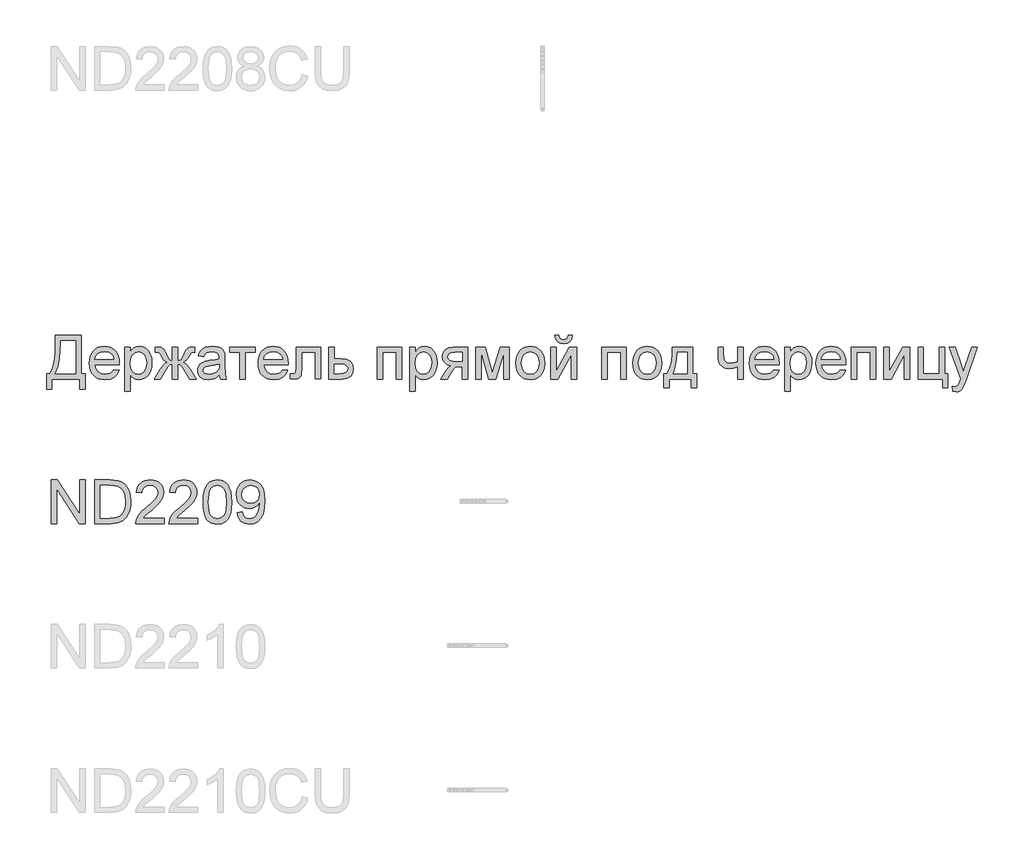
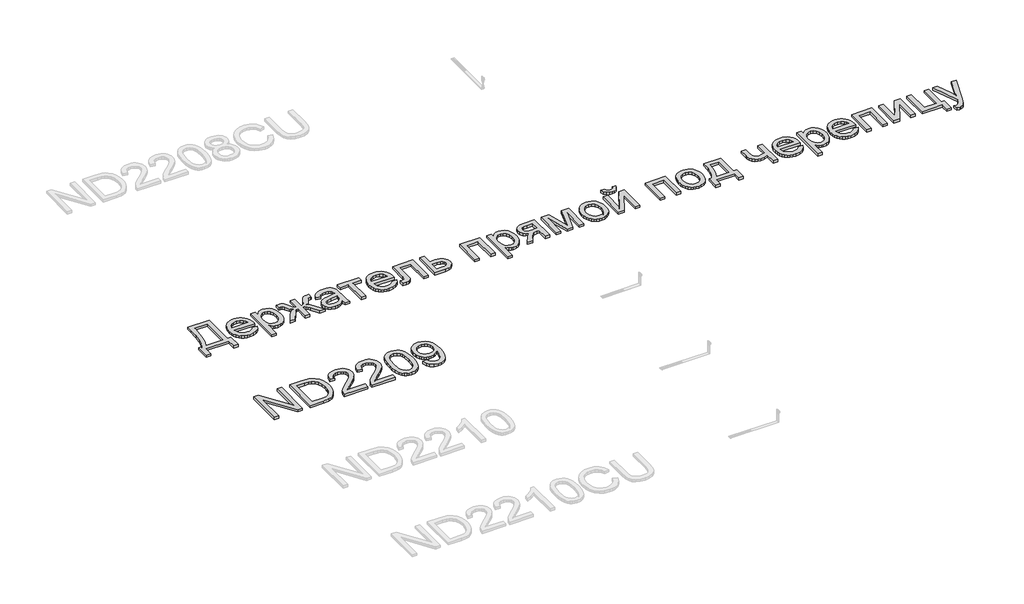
# One storey, part 89 of 124: 2 proxies.
"""IFC4 building model written with IfcOpenShell, lengths in millimetres."""

from ifc_helpers import new_model, si_unit, origin, origin_with_axes, place, context, project, spatial, polyline, outline, extrude, element, save

model = new_model("IFC4")

# Units and contexts
model_context = context("Model", 3, world=origin())
ifc_project = project(units=[si_unit("LENGTHUNIT", "METRE", prefix="MILLI")], contexts=[model_context])

# Site, building, storey
site = spatial("IfcSite", under=ifc_project)
building = spatial("IfcBuilding", under=site)
storey = spatial("IfcBuildingStorey", under=building, Name="Этаж 01", Elevation=0.0)

# Proxies
placement = place(None, origin())
element("IfcBuildingElementProxy", 1, Name="300", ObjectType="300", at=placement, inside=storey, context=model_context, shape_type="SweptSolid", body=[
    extrude(outline(polyline([(23368.4204648, -26218.1451728), (23547.3582672, -26218.1451728), (23547.3582672, -26481.842987), (23575.6116044, -26481.842987), (23575.6116044, -26590.1474463), (23537.9404881, -26590.1474463), (23537.9404881, -26519.5141033), (23344.8760171, -26519.5141033), (23344.8760171, -26590.1474463), (23307.2049008, -26590.1474463), (23307.2049008, -26481.842987), (23330.7493485, -26481.842987), (23347.2304618, -26447.6713481), (23359.0026857, -26399.6029669), (23366.06602, -26337.6378434), (23368.4204648, -26261.7759774), (23368.4204648, -26218.1451728)]), holes=[polyline([(23509.6871509, -26255.8162891), (23406.0915811, -26255.8162891), (23406.0915811, -26270.9730273), (23398.4396356, -26374.2007152), (23387.1088701, -26433.8527807), (23368.4204648, -26481.842987), (23509.6871509, -26481.842987), (23509.6871509, -26255.8162891)])]), origin_with_axes(), (0.0, 0.0, 1.0), 20.0),
    extrude(outline(polyline([(23772.9435067, -26453.5896497), (23809.878859, -26458.2985393), (23796.5707278, -26486.1288122), (23775.3347396, -26506.932539), (23746.649141, -26519.9003794), (23710.9921787, -26524.2229928), (23687.6178764, -26522.3582909), (23666.7911569, -26516.7641853), (23648.5120203, -26507.440676), (23632.7804665, -26494.387763), (23620.1299244, -26477.9687297), (23611.0938229, -26458.5468596), (23605.672162, -26436.1221527), (23603.8649417, -26410.6946091), (23605.6905561, -26384.404842), (23611.1673993, -26361.2328748), (23620.2954713, -26341.1787076), (23633.0747721, -26324.2423402), (23648.7649392, -26310.7870562), (23666.62561, -26301.1761391), (23686.6567847, -26295.4095888), (23708.8584631, -26293.4874054), (23730.3450709, -26295.4049903), (23749.776138, -26301.157745), (23767.1516645, -26310.7456695), (23782.4716503, -26324.1687638), (23794.9773389, -26341.068343), (23803.9099736, -26361.085722), (23809.2695544, -26384.220901), (23811.0560814, -26410.4738799), (23810.8353522, -26420.627423), (23641.536058, -26420.627423), (23648.0567663, -26448.8255779), (23663.2043075, -26469.5557283), (23685.0656951, -26482.3028394), (23711.7279427, -26486.5518765), (23731.7775114, -26484.5837078), (23748.663295, -26478.6792018), (23762.3852934, -26468.4704764), (23772.9435067, -26453.5896497)]), holes=[polyline([(23641.536058, -26382.9563067), (23773.384965, -26382.9563067), (23768.2897994, -26363.0538907), (23758.3018032, -26348.8168575), (23736.3392481, -26335.5731057), (23708.7113103, -26331.1585217), (23683.3182556, -26334.6809918), (23662.3213907, -26345.2484021), (23647.7256725, -26361.7203185), (23641.536058, -26382.9563067)])]), origin_with_axes(), (0.0, 0.0, 1.0), 20.0),
    extrude(outline(polyline([(23848.7271977, -26604.2741149), (23848.7271977, -26298.196295), (23886.398314, -26298.196295), (23886.398314, -26335.1316473), (23898.6855726, -26316.9122915), (23912.4443592, -26303.8984659), (23928.4840142, -26296.0901705), (23947.613878, -26293.4874054), (23973.0897061, -26297.1294372), (23995.3649609, -26308.0555324), (24013.5015433, -26325.6035036), (24026.5613541, -26349.1111631), (24034.4524229, -26376.8678596), (24037.0827792, -26407.1629419), (24034.1121321, -26439.3802077), (24025.2001907, -26468.1945649), (24010.6320637, -26492.1436828), (23990.6928596, -26509.7652304), (23967.4703087, -26520.6085522), (23943.0521412, -26524.2229928), (23925.7340963, -26521.8041687), (23910.2738555, -26514.5476963), (23897.0393007, -26503.5940099), (23886.398314, -26490.0835436), (23886.398314, -26604.2741149), (23848.7271977, -26604.2741149)]), holes=[polyline([(23886.398314, -26410.6210327), (23890.4726071, -26444.3925998), (23902.6954864, -26468.0106239), (23920.7309012, -26481.9165634), (23942.2428008, -26486.5518765), (23964.1041884, -26481.7510165), (23982.5994557, -26467.3484363), (23995.2086111, -26442.8658896), (23999.4116629, -26407.8251295), (23995.3097786, -26374.2375034), (23983.0041259, -26350.2883855), (23964.9963022, -26335.9409877), (23943.7879052, -26331.1585217), (23922.4967347, -26336.2444903), (23903.7991323, -26351.5023961), (23890.7485186, -26376.4539924), (23886.398314, -26410.6210327)])]), origin_with_axes(), (0.0, 0.0, 1.0), 20.0),
    extrude(outline(polyline([(24216.0205816, -26298.196295), (24216.0205816, -26392.3740857), (24229.3103187, -26390.4335082), (24237.9831368, -26384.6117756), (24258.7684695, -26344.3286972), (24271.7363098, -26319.220751), (24283.563716, -26305.7010877), (24297.9295079, -26300.0724931), (24318.8068111, -26298.196295), (24333.7428201, -26298.196295), (24333.7428201, -26336.0881405), (24323.3685478, -26335.8674113), (24303.9443785, -26339.7669604), (24290.4798975, -26364.1943249), (24274.8449127, -26390.9761341), (24252.5144756, -26404.587768), (24264.9075003, -26409.8898672), (24277.1441751, -26419.2478655), (24301.1484753, -26450.131559), (24343.1605992, -26519.5141033), (24299.9712529, -26519.5141033), (24258.6213167, -26451.0880522), (24247.3181424, -26433.1262137), (24237.5416784, -26422.6507739), (24227.6548497, -26417.6015935), (24216.0205816, -26415.9185334), (24216.0205816, -26519.5141033), (24178.3494653, -26519.5141033), (24178.3494653, -26415.9185334), (24166.8071677, -26417.5648053), (24156.901945, -26422.5036211), (24147.0519046, -26432.9054845), (24135.6751539, -26450.9408994), (24094.3252176, -26519.5141033), (24051.2094478, -26519.5141033), (24093.0744189, -26450.131559), (24117.26266, -26419.2478655), (24129.5637143, -26409.8898672), (24142.0027242, -26404.587768), (24127.6185382, -26397.3772809), (24118.3111237, -26389.5781826), (24098.0040376, -26350.9505731), (24088.0712237, -26338.221856), (24071.8108395, -26335.6466821), (24060.6272269, -26335.8674113), (24060.6272269, -26298.196295), (24066.2926096, -26298.196295), (24099.3284128, -26300.5507397), (24116.4717138, -26310.55713), (24135.6751539, -26344.3286972), (24156.2397574, -26384.3542582), (24164.9125755, -26390.3691289), (24178.3494653, -26392.3740857), (24178.3494653, -26298.196295), (24216.0205816, -26298.196295)])), origin_with_axes(), (0.0, 0.0, 1.0), 20.0),
    extrude(outline(polyline([(24503.2628435, -26491.260766), (24485.2642169, -26506.6934157), (24466.7321614, -26516.7917765), (24447.2436127, -26522.3651887), (24426.3755065, -26524.2229928), (24394.8940047, -26519.7532266), (24371.6714538, -26506.3439278), (24357.3516471, -26485.9816594), (24352.5783783, -26460.652984), (24354.381, -26445.0363933), (24359.7888654, -26430.8545424), (24368.1305896, -26418.7144366), (24378.7347881, -26409.2230811), (24405.1119272, -26396.8622461), (24437.7062719, -26391.1968633), (24476.2235168, -26385.237175), (24503.0421143, -26378.2474171), (24503.2628435, -26369.8597076), (24500.6692754, -26353.0475004), (24492.8885712, -26342.0478288), (24475.4877528, -26333.8808485), (24451.2443294, -26331.1585217), (24428.8035277, -26332.9703406), (24413.1317547, -26338.405797), (24402.4447827, -26348.4581726), (24394.9583841, -26364.1207485), (24357.2872678, -26359.411859), (24363.8263703, -26338.8104672), (24373.5844402, -26322.6236594), (24387.4719855, -26310.2444303), (24406.3995141, -26301.0657745), (24429.5484887, -26295.3819977), (24456.1003717, -26293.4874054), (24481.5670028, -26295.1612685), (24501.7545273, -26300.1828577), (24516.9756448, -26307.7336357), (24527.5430552, -26316.9950649), (24534.5512072, -26328.445392), (24539.0945498, -26342.5628636), (24540.9339598, -26375.5250903), (24540.9339598, -26422.3932565), (24542.8469462, -26487.8394635), (24550.3517389, -26519.5141033), (24512.6806226, -26519.5141033), (24503.2628435, -26491.260766)]), holes=[polyline([(24503.2628435, -26415.9185334), (24442.4887379, -26427.4700281), (24410.0783341, -26433.5768692), (24395.3998425, -26443.5096831), (24390.2494946, -26458.0042337), (24393.0545948, -26469.2062404), (24401.4698954, -26478.3848962), (24415.3114555, -26484.5101314), (24434.395334, -26486.5518765), (24454.6288437, -26484.2985993), (24472.5079087, -26477.5387676), (24487.0024593, -26467.5783626), (24497.082426, -26455.7233653), (24501.5521922, -26443.5096831), (24503.0421143, -26426.5871113), (24503.2628435, -26415.9185334)])]), origin_with_axes(), (0.0, 0.0, 1.0), 20.0),
    extrude(outline(polyline([(24573.8961866, -26298.196295), (24752.833989, -26298.196295), (24752.833989, -26335.8674113), (24682.2006459, -26335.8674113), (24682.2006459, -26519.5141033), (24644.5295296, -26519.5141033), (24644.5295296, -26335.8674113), (24573.8961866, -26335.8674113), (24573.8961866, -26298.196295)])), origin_with_axes(), (0.0, 0.0, 1.0), 20.0),
    extrude(outline(polyline([(24940.7481121, -26453.5896497), (24977.6834645, -26458.2985393), (24964.3753333, -26486.1288122), (24943.1393451, -26506.932539), (24914.4537465, -26519.9003794), (24878.7967842, -26524.2229928), (24855.4224819, -26522.3582909), (24834.5957624, -26516.7641853), (24816.3166258, -26507.440676), (24800.585072, -26494.387763), (24787.9345299, -26477.9687297), (24778.8984284, -26458.5468596), (24773.4767675, -26436.1221527), (24771.6695472, -26410.6946091), (24773.4951616, -26384.404842), (24778.9720048, -26361.2328748), (24788.1000768, -26341.1787076), (24800.8793776, -26324.2423402), (24816.5695447, -26310.7870562), (24834.4302155, -26301.1761391), (24854.4613902, -26295.4095888), (24876.6630686, -26293.4874054), (24898.1496764, -26295.4049903), (24917.5807435, -26301.157745), (24934.95627, -26310.7456695), (24950.2762558, -26324.1687638), (24962.7819444, -26341.068343), (24971.7145791, -26361.085722), (24977.0741599, -26384.220901), (24978.8606868, -26410.4738799), (24978.6399576, -26420.627423), (24809.3406635, -26420.627423), (24815.8613718, -26448.8255779), (24831.008913, -26469.5557283), (24852.8703005, -26482.3028394), (24879.5325481, -26486.5518765), (24899.5821169, -26484.5837078), (24916.4679005, -26478.6792018), (24930.1898989, -26468.4704764), (24940.7481121, -26453.5896497)]), holes=[polyline([(24809.3406635, -26382.9563067), (24941.1895705, -26382.9563067), (24936.0944049, -26363.0538907), (24926.1064087, -26348.8168575), (24904.1438536, -26335.5731057), (24876.5159158, -26331.1585217), (24851.1228611, -26334.6809918), (24830.1259962, -26345.2484021), (24815.530278, -26361.7203185), (24809.3406635, -26382.9563067)])]), origin_with_axes(), (0.0, 0.0, 1.0), 20.0),
    extrude(outline(polyline([(25035.3673613, -26298.196295), (25204.8873847, -26298.196295), (25204.8873847, -26519.2933741), (25167.2162684, -26519.2933741), (25167.2162684, -26335.8674113), (25073.0384776, -26335.8674113), (25073.0384776, -26441.4495439), (25070.5000918, -26490.15712), (25065.7452171, -26501.1843829), (25056.5573642, -26510.7217236), (25042.6146366, -26517.3160083), (25023.5951375, -26519.5141033), (24992.9873555, -26517.6011169), (24992.9873555, -26481.842987), (25009.8363508, -26481.842987), (25026.8692872, -26479.5253304), (25033.6751041, -26472.1676905), (25035.3673613, -26439.3158283), (25035.3673613, -26298.196295)])), origin_with_axes(), (0.0, 0.0, 1.0), 20.0),
    extrude(outline(polyline([(25261.3940591, -26298.196295), (25299.0651754, -26298.196295), (25299.0651754, -26378.2474171), (25342.4752509, -26378.2474171), (25380.109579, -26382.9655037), (25395.2571201, -26388.8631119), (25407.958246, -26397.1197635), (25418.0014245, -26407.4503497), (25425.1751234, -26419.5697622), (25430.9140825, -26449.1750658), (25426.030449, -26476.131619), (25411.3795486, -26498.8759233), (25400.1476514, -26507.9051271), (25385.9864939, -26514.3545583), (25348.8763976, -26519.5141033), (25261.3940591, -26519.5141033), (25261.3940591, -26298.196295)]), holes=[polyline([(25299.0651754, -26481.842987), (25334.2346942, -26481.842987), (25361.5223412, -26479.8656212), (25379.6681206, -26473.9335241), (25389.8492548, -26463.8075721), (25393.2429662, -26449.2486422), (25390.7321716, -26436.9429894), (25383.1997877, -26426.0720765), (25367.0589652, -26418.4569192), (25338.7228545, -26415.9185334), (25299.0651754, -26415.9185334), (25299.0651754, -26481.842987)])]), origin_with_axes(), (0.0, 0.0, 1.0), 20.0),
    extrude(outline(polyline([(25595.7252164, -26298.196295), (25765.2452397, -26298.196295), (25765.2452397, -26519.5141033), (25727.5741234, -26519.5141033), (25727.5741234, -26335.8674113), (25633.3963327, -26335.8674113), (25633.3963327, -26519.5141033), (25595.7252164, -26519.5141033), (25595.7252164, -26298.196295)])), origin_with_axes(), (0.0, 0.0, 1.0), 20.0),
    extrude(outline(polyline([(25821.7519142, -26604.2741149), (25821.7519142, -26298.196295), (25859.4230305, -26298.196295), (25859.4230305, -26335.1316473), (25871.7102891, -26316.9122915), (25885.4690758, -26303.8984659), (25901.5087307, -26296.0901705), (25920.6385945, -26293.4874054), (25946.1144227, -26297.1294372), (25968.3896775, -26308.0555324), (25986.5262598, -26325.6035036), (25999.5860707, -26349.1111631), (26007.4771395, -26376.8678596), (26010.1074957, -26407.1629419), (26007.1368486, -26439.3802077), (25998.2249073, -26468.1945649), (25983.6567803, -26492.1436828), (25963.7175761, -26509.7652304), (25940.4950252, -26520.6085522), (25916.0768578, -26524.2229928), (25898.7588128, -26521.8041687), (25883.298572, -26514.5476963), (25870.0640172, -26503.5940099), (25859.4230305, -26490.0835436), (25859.4230305, -26604.2741149), (25821.7519142, -26604.2741149)]), holes=[polyline([(25859.4230305, -26410.6210327), (25863.4973236, -26444.3925998), (25875.7202029, -26468.0106239), (25893.7556177, -26481.9165634), (25915.2675174, -26486.5518765), (25937.1289049, -26481.7510165), (25955.6241722, -26467.3484363), (25968.2333276, -26442.8658896), (25972.4363794, -26407.8251295), (25968.3344952, -26374.2375034), (25956.0288424, -26350.2883855), (25938.0210188, -26335.9409877), (25916.8126217, -26331.1585217), (25895.5214513, -26336.2444903), (25876.8238489, -26351.5023961), (25863.7732351, -26376.4539924), (25859.4230305, -26410.6210327)])]), origin_with_axes(), (0.0, 0.0, 1.0), 20.0),
    extrude(outline(polyline([(26222.0075249, -26298.196295), (26222.0075249, -26519.5141033), (26184.3364086, -26519.5141033), (26184.3364086, -26434.7540916), (26163.8085933, -26434.7540916), (26135.8495617, -26439.5365575), (26124.6843431, -26449.9660121), (26109.5827872, -26471.6894439), (26079.5636164, -26519.5141033), (26036.0063882, -26519.5141033), (26073.8246573, -26459.0343033), (26090.5264999, -26437.3292655), (26105.9039673, -26427.6907573), (26080.1522276, -26419.7996885), (26062.0524334, -26404.8084972), (26051.3470674, -26384.869293), (26047.778612, -26362.1341857), (26052.6530485, -26336.3456579), (26067.2763578, -26315.9282071), (26091.1335052, -26302.629273), (26123.7094558, -26298.196295), (26222.0075249, -26298.196295)]), holes=[polyline([(26184.3364086, -26335.8674113), (26134.6723393, -26335.8674113), (26109.0217672, -26338.0471121), (26094.4628372, -26344.5862146), (26087.7030056, -26354.0499789), (26085.4497283, -26365.0036653), (26088.7698633, -26379.3602601), (26098.7302684, -26389.3206652), (26117.1335652, -26395.1423977), (26145.7823755, -26397.0829753), (26184.3364086, -26397.0829753), (26184.3364086, -26335.8674113)])]), origin_with_axes(), (0.0, 0.0, 1.0), 20.0),
    extrude(outline(polyline([(26278.5141994, -26298.196295), (26343.335007, -26298.196295), (26393.2933819, -26475.3682638), (26447.151306, -26298.196295), (26509.2497868, -26298.196295), (26509.2497868, -26519.5141033), (26471.5786705, -26519.5141033), (26471.5786705, -26341.3120648), (26417.4264408, -26519.5141033), (26367.9831006, -26519.5141033), (26316.1853157, -26332.7772025), (26316.1853157, -26519.5141033), (26278.5141994, -26519.5141033), (26278.5141994, -26298.196295)])), origin_with_axes(), (0.0, 0.0, 1.0), 20.0),
    extrude(outline(polyline([(26556.3386822, -26408.8551991), (26558.3758287, -26380.1925932), (26564.4872684, -26355.4939157), (26574.6730011, -26334.7591668), (26588.9330269, -26317.9883463), (26603.2896218, -26307.2691847), (26619.1361387, -26299.6126406), (26636.4725778, -26295.0187142), (26655.2989389, -26293.4874054), (26676.0819723, -26295.3521073), (26694.8738445, -26300.9462129), (26711.6745554, -26310.2697222), (26726.4841049, -26323.3226352), (26738.5713277, -26339.6634936), (26747.2050583, -26358.8508389), (26752.3852967, -26380.8846712), (26754.1120428, -26405.7649904), (26751.0586222, -26443.8223828), (26741.8983605, -26472.7930899), (26726.8979722, -26494.4889305), (26706.3241716, -26510.7217236), (26681.8876101, -26520.8476755), (26655.2989389, -26524.2229928), (26634.2124028, -26522.3651887), (26615.2457866, -26516.7917765), (26598.3990905, -26507.5027561), (26583.6723144, -26494.4981276), (26571.7138503, -26477.9986201), (26563.1720902, -26458.2249629), (26558.0470342, -26435.1771559), (26556.3386822, -26408.8551991)]), holes=[polyline([(26594.0097985, -26408.7816227), (26598.3692001, -26442.8750866), (26611.447405, -26467.1644953), (26631.1290918, -26481.7050312), (26655.2989389, -26486.5518765), (26679.3584213, -26481.6774401), (26699.0033199, -26467.0541307), (26712.0815248, -26442.4428253), (26716.4409265, -26407.6044003), (26712.0539337, -26374.5042178), (26698.8929553, -26350.5459029), (26679.2204656, -26336.005367), (26655.2989389, -26331.1585217), (26631.1290918, -26335.9869729), (26611.447405, -26350.4723265), (26598.3692001, -26374.7065529), (26594.0097985, -26408.7816227)])]), origin_with_axes(), (0.0, 0.0, 1.0), 20.0),
    extrude(outline(polyline([(26796.4920486, -26298.196295), (26834.1631649, -26298.196295), (26834.1631649, -26466.9805543), (26926.7222749, -26298.196295), (26975.4298511, -26298.196295), (26975.4298511, -26519.5141033), (26937.7587348, -26519.5141033), (26937.7587348, -26351.7599135), (26845.788236, -26519.5141033), (26796.4920486, -26519.5141033), (26796.4920486, -26298.196295)])), origin_with_axes(), (0.0, 0.0, 1.0), 20.0),
    extrude(outline(polyline([(26918.9231766, -26218.1451728), (26947.1765138, -26218.1451728), (26941.0972639, -26242.2690346), (26928.8927787, -26260.0469321), (26911.1148813, -26271.0006185), (26888.3153946, -26274.6518473), (26863.5753304, -26271.0282096), (26844.3902844, -26260.1572967), (26831.2752913, -26242.4069904), (26824.7453858, -26218.1451728), (26852.9987231, -26218.1451728), (26856.9718486, -26230.5519931), (26863.5937245, -26239.3719639), (26872.901139, -26244.6418735), (26884.9308803, -26246.39851), (26898.5057259, -26244.6970558), (26908.3281751, -26239.5926931), (26914.9500511, -26230.8279046), (26918.9231766, -26218.1451728)])), origin_with_axes(), (0.0, 0.0, 1.0), 20.0),
    extrude(outline(polyline([(27149.658764, -26298.196295), (27319.1787874, -26298.196295), (27319.1787874, -26519.5141033), (27281.5076711, -26519.5141033), (27281.5076711, -26335.8674113), (27187.3298803, -26335.8674113), (27187.3298803, -26519.5141033), (27149.658764, -26519.5141033), (27149.658764, -26298.196295)])), origin_with_axes(), (0.0, 0.0, 1.0), 20.0),
    extrude(outline(polyline([(27366.2676827, -26408.8551991), (27368.3048293, -26380.1925932), (27374.4162689, -26355.4939157), (27384.6020017, -26334.7591668), (27398.8620275, -26317.9883463), (27413.2186224, -26307.2691847), (27429.0651393, -26299.6126406), (27446.4015783, -26295.0187142), (27465.2279394, -26293.4874054), (27486.0109729, -26295.3521073), (27504.8028451, -26300.9462129), (27521.6035559, -26310.2697222), (27536.4131055, -26323.3226352), (27548.5003283, -26339.6634936), (27557.1340589, -26358.8508389), (27562.3142972, -26380.8846712), (27564.0410433, -26405.7649904), (27560.9876228, -26443.8223828), (27551.8273611, -26472.7930899), (27536.8269728, -26494.4889305), (27516.2531722, -26510.7217236), (27491.8166106, -26520.8476755), (27465.2279394, -26524.2229928), (27444.1414033, -26522.3651887), (27425.1747872, -26516.7917765), (27408.3280911, -26507.5027561), (27393.601315, -26494.4981276), (27381.6428509, -26477.9986201), (27373.1010908, -26458.2249629), (27367.9760348, -26435.1771559), (27366.2676827, -26408.8551991)]), holes=[polyline([(27403.938799, -26408.7816227), (27408.2982007, -26442.8750866), (27421.3764056, -26467.1644953), (27441.0580924, -26481.7050312), (27465.2279394, -26486.5518765), (27489.2874219, -26481.6774401), (27508.9323205, -26467.0541307), (27522.0105254, -26442.4428253), (27526.369927, -26407.6044003), (27521.9829343, -26374.5042178), (27508.8219559, -26350.5459029), (27489.1494662, -26336.005367), (27465.2279394, -26331.1585217), (27441.0580924, -26335.9869729), (27421.3764056, -26350.4723265), (27408.2982007, -26374.7065529), (27403.938799, -26408.7816227)])]), origin_with_axes(), (0.0, 0.0, 1.0), 20.0),
    extrude(outline(polyline([(27639.383276, -26298.196295), (27780.6499621, -26298.196295), (27780.6499621, -26481.842987), (27808.9032993, -26481.842987), (27808.9032993, -26580.7296673), (27771.232183, -26580.7296673), (27771.232183, -26519.5141033), (27615.8388283, -26519.5141033), (27615.8388283, -26580.7296673), (27578.167712, -26580.7296673), (27578.167712, -26481.842987), (27601.7121597, -26481.842987), (27618.8278695, -26450.9133082), (27630.8116255, -26409.9956333), (27637.6634276, -26359.0899622), (27639.383276, -26298.196295)]), holes=[polyline([(27672.3455027, -26335.8674113), (27669.255294, -26381.9906164), (27663.5163348, -26421.6942807), (27655.1286254, -26454.9784043), (27644.0921655, -26481.842987), (27742.9788458, -26481.842987), (27742.9788458, -26335.8674113), (27672.3455027, -26335.8674113)])]), origin_with_axes(), (0.0, 0.0, 1.0), 20.0),
    extrude(outline(polyline([(27954.878875, -26298.196295), (27992.5499913, -26298.196295), (27992.5499913, -26340.6498772), (27995.6034119, -26380.4547091), (28000.7997451, -26392.0245978), (28010.2819035, -26402.012594), (28023.3785025, -26408.9103814), (28039.4181575, -26411.2096439), (28062.4659645, -26408.3585584), (28091.4366716, -26399.805302), (28091.4366716, -26298.196295), (28129.1077879, -26298.196295), (28129.1077879, -26519.5141033), (28091.4366716, -26519.5141033), (28091.4366716, -26435.931314), (28059.2837853, -26445.6433986), (28029.3381908, -26448.8807602), (28006.5570983, -26445.5054429), (27986.6270912, -26435.379491), (27971.093274, -26420.3607085), (27961.5007509, -26402.3068996), (27956.534344, -26381.7606902), (27954.878875, -26359.2647062), (27954.878875, -26298.196295)])), origin_with_axes(), (0.0, 0.0, 1.0), 20.0),
    extrude(outline(polyline([(28340.5663588, -26453.5896497), (28377.5017111, -26458.2985393), (28364.1935799, -26486.1288122), (28342.9575917, -26506.932539), (28314.2719932, -26519.9003794), (28278.6150308, -26524.2229928), (28255.2407285, -26522.3582909), (28234.4140091, -26516.7641853), (28216.1348724, -26507.440676), (28200.4033186, -26494.387763), (28187.7527765, -26477.9687297), (28178.716675, -26458.5468596), (28173.2950141, -26436.1221527), (28171.4877938, -26410.6946091), (28173.3134082, -26384.404842), (28178.7902514, -26361.2328748), (28187.9183234, -26341.1787076), (28200.6976242, -26324.2423402), (28216.3877913, -26310.7870562), (28234.2484622, -26301.1761391), (28254.2796368, -26295.4095888), (28276.4813152, -26293.4874054), (28297.967923, -26295.4049903), (28317.3989901, -26301.157745), (28334.7745166, -26310.7456695), (28350.0945024, -26324.1687638), (28362.600191, -26341.068343), (28371.5328257, -26361.085722), (28376.8924065, -26384.220901), (28378.6789335, -26410.4738799), (28378.4582043, -26420.627423), (28209.1589101, -26420.627423), (28215.6796185, -26448.8255779), (28230.8271596, -26469.5557283), (28252.6885472, -26482.3028394), (28279.3507948, -26486.5518765), (28299.4003635, -26484.5837078), (28316.2861471, -26478.6792018), (28330.0081455, -26468.4704764), (28340.5663588, -26453.5896497)]), holes=[polyline([(28209.1589101, -26382.9563067), (28341.0078172, -26382.9563067), (28335.9126515, -26363.0538907), (28325.9246554, -26348.8168575), (28303.9621002, -26335.5731057), (28276.3341624, -26331.1585217), (28250.9411077, -26334.6809918), (28229.9442428, -26345.2484021), (28215.3485247, -26361.7203185), (28209.1589101, -26382.9563067)])]), origin_with_axes(), (0.0, 0.0, 1.0), 20.0),
    extrude(outline(polyline([(28416.3500498, -26604.2741149), (28416.3500498, -26298.196295), (28454.0211661, -26298.196295), (28454.0211661, -26335.1316473), (28466.3084247, -26316.9122915), (28480.0672113, -26303.8984659), (28496.1068663, -26296.0901705), (28515.2367301, -26293.4874054), (28540.7125582, -26297.1294372), (28562.9878131, -26308.0555324), (28581.1243954, -26325.6035036), (28594.1842062, -26349.1111631), (28602.075275, -26376.8678596), (28604.7056313, -26407.1629419), (28601.7349842, -26439.3802077), (28592.8230429, -26468.1945649), (28578.2549159, -26492.1436828), (28558.3157117, -26509.7652304), (28535.0931608, -26520.6085522), (28510.6749933, -26524.2229928), (28493.3569484, -26521.8041687), (28477.8967076, -26514.5476963), (28464.6621528, -26503.5940099), (28454.0211661, -26490.0835436), (28454.0211661, -26604.2741149), (28416.3500498, -26604.2741149)]), holes=[polyline([(28454.0211661, -26410.6210327), (28458.0954592, -26444.3925998), (28470.3183385, -26468.0106239), (28488.3537533, -26481.9165634), (28509.8656529, -26486.5518765), (28531.7270405, -26481.7510165), (28550.2223078, -26467.3484363), (28562.8314632, -26442.8658896), (28567.034515, -26407.8251295), (28562.9326308, -26374.2375034), (28550.626978, -26350.2883855), (28532.6191544, -26335.9409877), (28511.4107573, -26331.1585217), (28490.1195869, -26336.2444903), (28471.4219845, -26351.5023961), (28458.3713707, -26376.4539924), (28454.0211661, -26410.6210327)])]), origin_with_axes(), (0.0, 0.0, 1.0), 20.0),
    extrude(outline(polyline([(28802.0375335, -26453.5896497), (28838.9728858, -26458.2985393), (28825.6647547, -26486.1288122), (28804.4287665, -26506.932539), (28775.7431679, -26519.9003794), (28740.0862055, -26524.2229928), (28716.7119033, -26522.3582909), (28695.8851838, -26516.7641853), (28677.6060472, -26507.440676), (28661.8744934, -26494.387763), (28649.2239512, -26477.9687297), (28640.1878497, -26458.5468596), (28634.7661888, -26436.1221527), (28632.9589685, -26410.6946091), (28634.7845829, -26384.404842), (28640.2614261, -26361.2328748), (28649.3894981, -26341.1787076), (28662.168799, -26324.2423402), (28677.858966, -26310.7870562), (28695.7196369, -26301.1761391), (28715.7508116, -26295.4095888), (28737.95249, -26293.4874054), (28759.4390977, -26295.4049903), (28778.8701649, -26301.157745), (28796.2456914, -26310.7456695), (28811.5656772, -26324.1687638), (28824.0713658, -26341.068343), (28833.0040005, -26361.085722), (28838.3635813, -26384.220901), (28840.1501082, -26410.4738799), (28839.929379, -26420.627423), (28670.6300848, -26420.627423), (28677.1507932, -26448.8255779), (28692.2983344, -26469.5557283), (28714.1597219, -26482.3028394), (28740.8219695, -26486.5518765), (28760.8715383, -26484.5837078), (28777.7573218, -26478.6792018), (28791.4793203, -26468.4704764), (28802.0375335, -26453.5896497)]), holes=[polyline([(28670.6300848, -26382.9563067), (28802.4789919, -26382.9563067), (28797.3838263, -26363.0538907), (28787.3958301, -26348.8168575), (28765.433275, -26335.5731057), (28737.8053372, -26331.1585217), (28712.4122824, -26334.6809918), (28691.4154176, -26345.2484021), (28676.8196994, -26361.7203185), (28670.6300848, -26382.9563067)])]), origin_with_axes(), (0.0, 0.0, 1.0), 20.0),
    extrude(outline(polyline([(28877.8212245, -26298.196295), (29047.3412479, -26298.196295), (29047.3412479, -26519.5141033), (29009.6701316, -26519.5141033), (29009.6701316, -26335.8674113), (28915.4923408, -26335.8674113), (28915.4923408, -26519.5141033), (28877.8212245, -26519.5141033), (28877.8212245, -26298.196295)])), origin_with_axes(), (0.0, 0.0, 1.0), 20.0),
    extrude(outline(polyline([(29103.8479224, -26298.196295), (29141.5190387, -26298.196295), (29141.5190387, -26466.9805543), (29234.0781487, -26298.196295), (29282.7857248, -26298.196295), (29282.7857248, -26519.5141033), (29245.1146085, -26519.5141033), (29245.1146085, -26351.7599135), (29153.1441097, -26519.5141033), (29103.8479224, -26519.5141033), (29103.8479224, -26298.196295)])), origin_with_axes(), (0.0, 0.0, 1.0), 20.0),
    extrude(outline(polyline([(29339.2923993, -26298.196295), (29376.9635156, -26298.196295), (29376.9635156, -26481.842987), (29485.267975, -26481.842987), (29485.267975, -26298.196295), (29522.9390913, -26298.196295), (29522.9390913, -26481.842987), (29546.483539, -26481.842987), (29546.483539, -26580.7296673), (29508.8124227, -26580.7296673), (29508.8124227, -26519.5141033), (29339.2923993, -26519.5141033), (29339.2923993, -26298.196295)])), origin_with_axes(), (0.0, 0.0, 1.0), 20.0),
    extrude(outline(polyline([(29579.4457657, -26604.2741149), (29574.7368762, -26568.0009502), (29593.8667399, -26571.3118882), (29611.7458049, -26567.1548216), (29622.7086884, -26555.5665388), (29633.0093842, -26527.8282364), (29635.9524402, -26518.7047629), (29555.901318, -26298.196295), (29595.6325735, -26298.196295), (29638.0861558, -26421.0688814), (29652.875012, -26470.2179159), (29667.6638682, -26426.8078405), (29711.2946728, -26298.196295), (29750.7316227, -26298.196295), (29673.6971329, -26524.811604), (29653.6843524, -26573.9606385), (29643.4388388, -26589.6508056), (29631.8321618, -26600.5217186), (29618.3492867, -26606.867683), (29602.4751786, -26608.9830045), (29579.4457657, -26604.2741149)])), origin_with_axes(), (0.0, 0.0, 1.0), 20.0),
])
element("IfcBuildingElementProxy", 2, Name="300", ObjectType="300", at=placement, inside=storey, context=model_context, shape_type="SweptSolid", body=[
    extrude(outline(polyline([(23340.1671275, -27519.5141033), (23340.1671275, -27218.1451728), (23380.4869942, -27218.1451728), (23537.9404881, -27456.9005877), (23537.9404881, -27218.1451728), (23575.6116044, -27218.1451728), (23575.6116044, -27519.5141033), (23535.2917378, -27519.5141033), (23377.8382438, -27280.685112), (23377.8382438, -27519.5141033), (23340.1671275, -27519.5141033)])), origin_with_axes(), (0.0, 0.0, 1.0), 20.0),
    extrude(outline(polyline([(23641.536058, -27519.5141033), (23641.536058, -27218.1451728), (23745.4995098, -27218.1451728), (23799.2838575, -27222.4861804), (23823.3065518, -27230.8554957), (23843.5768497, -27244.0440653), (23864.4173648, -27266.9999018), (23879.2614033, -27295.5475446), (23888.1457534, -27329.1351708), (23891.1072035, -27367.2109573), (23889.1022466, -27399.5569817), (23883.087376, -27428.0218511), (23873.9271143, -27452.2560775), (23862.4859843, -27471.9101731), (23849.3158089, -27487.4255962), (23834.968411, -27499.2438053), (23818.4964947, -27508.0085939), (23798.9527637, -27514.3637553), (23750.5027049, -27519.5141033), (23641.536058, -27519.5141033)]), holes=[polyline([(23679.2071743, -27481.842987), (23745.8673918, -27481.842987), (23773.4401473, -27480.4818236), (23794.3542388, -27476.3983334), (23810.1363764, -27469.8316398), (23822.3132704, -27461.020866), (23835.4006724, -27444.7144966), (23845.2323187, -27423.6072671), (23851.3851451, -27397.6072071), (23853.4360872, -27366.6223461), (23849.4169764, -27325.5667154), (23837.359644, -27295.253239), (23819.5449584, -27274.4311181), (23798.2537879, -27261.8495538), (23776.5855384, -27257.3246053), (23744.8373222, -27255.8162891), (23679.2071743, -27255.8162891), (23679.2071743, -27481.842987)])]), origin_with_axes(), (0.0, 0.0, 1.0), 20.0),
    extrude(outline(polyline([(24121.8427909, -27481.842987), (24121.8427909, -27519.5141033), (23924.0694303, -27519.5141033), (23928.1161322, -27493.5416344), (23937.4051526, -27473.2437453), (23950.9983923, -27453.5528615), (23970.661685, -27432.9422727), (23998.1608641, -27409.8852687), (24038.8118246, -27373.7776509), (24063.2024008, -27347.1246003), (24075.397689, -27325.493139), (24079.462785, -27304.4502889), (24075.6276152, -27285.5871396), (24064.1221058, -27269.9061695), (24046.4361789, -27259.3387592), (24024.0597566, -27255.8162891), (24000.5612941, -27259.2559858), (23982.3051501, -27269.5750757), (23970.5237292, -27285.9642186), (23966.4494361, -27307.614074), (23928.7783198, -27302.9051845), (23937.9109903, -27266.4664729), (23946.4573489, -27251.9305355), (23957.6570564, -27239.8502105), (23971.2525954, -27230.3542565), (23986.9864485, -27223.5714322), (24024.869097, -27218.1451728), (24045.0589207, -27219.653489), (24063.0276569, -27224.1784375), (24078.7753056, -27231.7200184), (24092.3018667, -27242.2782317), (24103.1658818, -27255.0713281), (24110.9258927, -27269.3175583), (24115.5818992, -27285.0169225), (24117.1339013, -27302.1694205), (24115.4600383, -27320.1864412), (24110.438449, -27337.8907622), (24101.5265077, -27355.8985859), (24088.1815883, -27374.8261146), (24066.9088119, -27397.4232661), (24034.2132996, -27426.4399585), (23990.8768006, -27462.676335), (23973.8806524, -27481.842987), (24121.8427909, -27481.842987)])), origin_with_axes(), (0.0, 0.0, 1.0), 20.0),
    extrude(outline(polyline([(24352.5783783, -27481.842987), (24352.5783783, -27519.5141033), (24154.8050176, -27519.5141033), (24158.8517196, -27493.5416344), (24168.14074, -27473.2437453), (24181.7339797, -27453.5528615), (24201.3972723, -27432.9422727), (24228.8964515, -27409.8852687), (24269.5474119, -27373.7776509), (24293.9379882, -27347.1246003), (24306.1332764, -27325.493139), (24310.1983724, -27304.4502889), (24306.3632026, -27285.5871396), (24294.8576932, -27269.9061695), (24277.1717663, -27259.3387592), (24254.7953439, -27255.8162891), (24231.2968815, -27259.2559858), (24213.0407375, -27269.5750757), (24201.2593166, -27285.9642186), (24197.1850235, -27307.614074), (24159.5139072, -27302.9051845), (24168.6465777, -27266.4664729), (24177.1929363, -27251.9305355), (24188.3926438, -27239.8502105), (24201.9881828, -27230.3542565), (24217.7220359, -27223.5714322), (24255.6046843, -27218.1451728), (24275.7945081, -27219.653489), (24293.7632443, -27224.1784375), (24309.5108929, -27231.7200184), (24323.037454, -27242.2782317), (24333.9014692, -27255.0713281), (24341.66148, -27269.3175583), (24346.3174865, -27285.0169225), (24347.8694887, -27302.1694205), (24346.1956256, -27320.1864412), (24341.1740364, -27337.8907622), (24332.2620951, -27355.8985859), (24318.9171757, -27374.8261146), (24297.6443993, -27397.4232661), (24264.948887, -27426.4399585), (24221.612388, -27462.676335), (24204.6162398, -27481.842987), (24352.5783783, -27481.842987)])), origin_with_axes(), (0.0, 0.0, 1.0), 20.0),
    extrude(outline(polyline([(24390.2494946, -27371.2576592), (24393.0178066, -27323.0191326), (24401.3227426, -27284.5478729), (24415.0815292, -27255.2552691), (24434.211393, -27234.5527098), (24458.8502896, -27222.2470571), (24489.1361749, -27218.1451728), (24512.3495288, -27220.573194), (24533.1348615, -27227.8572575), (24550.5172858, -27239.7122548), (24563.5219143, -27255.8530773), (24573.3443636, -27276.1417694), (24581.1802501, -27300.4403751), (24586.3122039, -27331.2964775), (24588.0228552, -27371.2576592), (24585.2821343, -27419.2202743), (24577.0599717, -27457.5995635), (24563.3839585, -27486.9197585), (24544.2816859, -27507.7050912), (24519.587607, -27520.0935174), (24489.1361749, -27524.2229928), (24468.3876303, -27522.4295681), (24449.9935306, -27517.0492939), (24433.9538756, -27508.0821703), (24420.2686654, -27495.5281972), (24407.1352781, -27472.8344766), (24397.7542873, -27444.5581467), (24392.1256927, -27410.6992076), (24390.2494946, -27371.2576592)]), holes=[polyline([(24427.9206109, -27371.1840828), (24432.3351948, -27430.4406752), (24437.8534247, -27450.7086739), (24445.5789466, -27464.7364742), (24465.2974216, -27481.0980259), (24489.1361749, -27486.5518765), (24512.9749282, -27481.0796318), (24532.6934031, -27464.6628978), (24540.418925, -27450.6121048), (24545.9371549, -27430.3487047), (24550.3517389, -27371.1840828), (24546.0843077, -27313.2610627), (24540.7500188, -27293.0597426), (24533.2820143, -27278.6985492), (24513.6003275, -27261.5368541), (24488.6947165, -27255.8162891), (24465.1134806, -27260.8562725), (24446.1675578, -27275.9762225), (24438.1845185, -27291.6112072), (24432.4823476, -27312.6908456), (24427.9206109, -27371.1840828)])]), origin_with_axes(), (0.0, 0.0, 1.0), 20.0),
    extrude(outline(polyline([(24625.6939715, -27444.1718706), (24663.3650878, -27439.4629811), (24669.8030227, -27460.8461221), (24680.2876596, -27475.405052), (24694.561481, -27483.7651704), (24712.3669695, -27486.5518765), (24728.3422452, -27484.7584518), (24742.8643869, -27479.3781776), (24754.9309164, -27470.9996651), (24763.5393551, -27460.2115256), (24775.8634019, -27427.4700281), (24781.3080554, -27383.765647), (24781.0873262, -27376.4080071), (24768.0367125, -27392.3372975), (24750.9577908, -27404.95565), (24731.082966, -27413.1778126), (24709.6446428, -27415.9185334), (24691.749483, -27414.2446703), (24675.2936615, -27409.2230811), (24660.2771783, -27400.8537657), (24646.7000334, -27389.1367242), (24635.4497421, -27374.6835603), (24627.4138198, -27358.1058779), (24622.5922664, -27339.4036769), (24620.9850819, -27318.5769575), (24622.6704413, -27297.0558608), (24627.7265195, -27277.742056), (24636.1533164, -27260.6355433), (24647.9508322, -27245.7363225), (24662.2867337, -27233.6651945), (24678.3286879, -27225.0429602), (24696.0766949, -27219.8696197), (24715.5307547, -27218.1451728), (24743.6277421, -27222.0815102), (24769.2047378, -27233.8905222), (24790.5970758, -27252.9835978), (24806.1400901, -27278.7721256), (24815.6038544, -27314.4198909), (24818.7584425, -27363.0906789), (24815.6130515, -27414.6953258), (24806.1768783, -27454.5829311), (24790.5326965, -27484.5561167), (24768.7632794, -27506.4175042), (24741.8067262, -27519.7716207), (24710.601136, -27524.2229928), (24678.3930673, -27518.9714773), (24652.6965099, -27503.2169309), (24634.7254745, -27477.9526349), (24625.6939715, -27444.1718706)]), holes=[polyline([(24781.0873262, -27317.6940407), (24777.0222302, -27292.1630302), (24764.826942, -27272.5181317), (24745.8994134, -27259.9917498), (24721.6375958, -27255.8162891), (24696.4744673, -27260.3136465), (24676.314534, -27273.8057187), (24663.0707822, -27294.4530957), (24658.6561982, -27320.4163675), (24662.8316589, -27343.6941007), (24675.3580408, -27362.1709739), (24695.0213335, -27374.2283063), (24720.6075262, -27378.2474171), (24744.6762058, -27374.2283063), (24764.0543899, -27362.1709739), (24776.8290921, -27343.013519), (24781.0873262, -27317.6940407)])]), origin_with_axes(), (0.0, 0.0, 1.0), 20.0),
])

save(model, "model.ifc")
